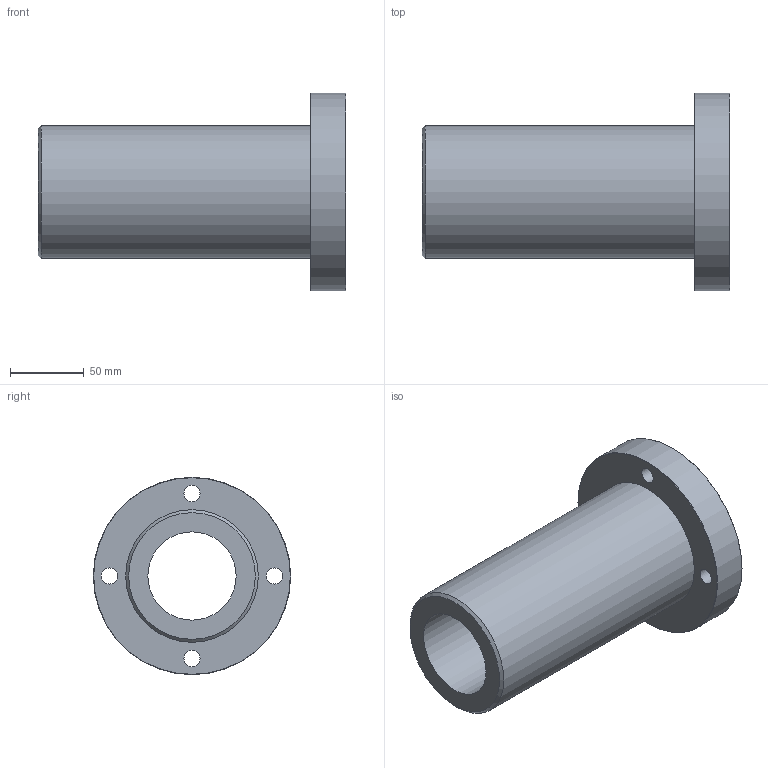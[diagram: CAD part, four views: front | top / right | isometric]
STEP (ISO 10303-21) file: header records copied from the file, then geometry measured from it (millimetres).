
FILE_DESCRIPTION(('STEP AP203'),'1');
FILE_NAME('//192.168.1.1/share/s-4 技術開発/s-4-4_CAD/s-4-4-3_見直し済み/PBC LINEAR修正済み/DFPJ/DFPJ_TOP/DFPJR/DFPJR60.step','2022-03-24T05:32:59',(' '),(' '),'Spatial InterOp 3D',' ',' ');
FILE_SCHEMA(('CONFIG_CONTROL_DESIGN'));
Length unit declared in the file: millimetre
Products named in the file (1): 1
Bounding box: 209 x 134 x 134 mm (x, y, z)
Volume: 908882.3 mm3; surface area: 127289.1 mm2
Topology: 1 solids, 1 shells, 21 faces, 44 edges, 30 vertices
Faces by surface type: cylinder 11, plane 7, cone 3
Full cylindrical faces by diameter (mm): 11 x4, 17 x4, 60 x1, 90 x1, 134 x1
Entity records: 528 total; most frequent: DIRECTION 94, CARTESIAN_POINT 72, EDGE_LOOP 50, ORIENTED_EDGE 50, AXIS2_PLACEMENT_3D 47, FACE_OUTER_BOUND 32, EDGE_CURVE 25, VERTEX_POINT 25
